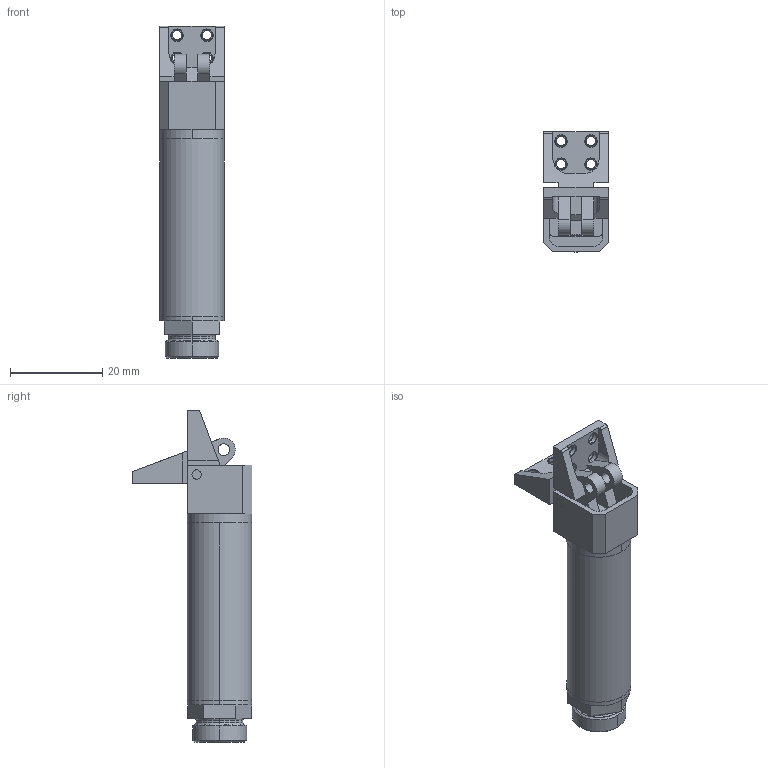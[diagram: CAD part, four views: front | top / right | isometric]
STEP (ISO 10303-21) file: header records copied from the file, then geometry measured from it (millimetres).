
FILE_DESCRIPTION (( 'STEP AP214' ), '1' );
FILE_NAME ('GFR14-95-C.STEP', '2019-11-13T01:19:17', ( '微软用户' ), ( '微软中国' ), 'SwSTEP 2.0', 'SolidWorks 2016', '' );
FILE_SCHEMA (( 'AUTOMOTIVE_DESIGN' ));
Length unit declared in the file: millimetre
Products named in the file (1): GFR14-95-C
Bounding box: 14 x 26 x 72.02 mm (x, y, z)
Volume: 8576 mm3; surface area: 9532.9 mm2
Topology: 8 solids, 8 shells, 351 faces, 827 edges, 518 vertices
Faces by surface type: cylinder 144, plane 104, cone 52, torus 47, bspline 4
Entity records: 14360 total; most frequent: DIRECTION 1940, CARTESIAN_POINT 1910, ORIENTED_EDGE 1654, EDGE_CURVE 827, AXIS2_PLACEMENT_3D 782, VERTEX_POINT 518, CIRCLE 434, EDGE_LOOP 419
